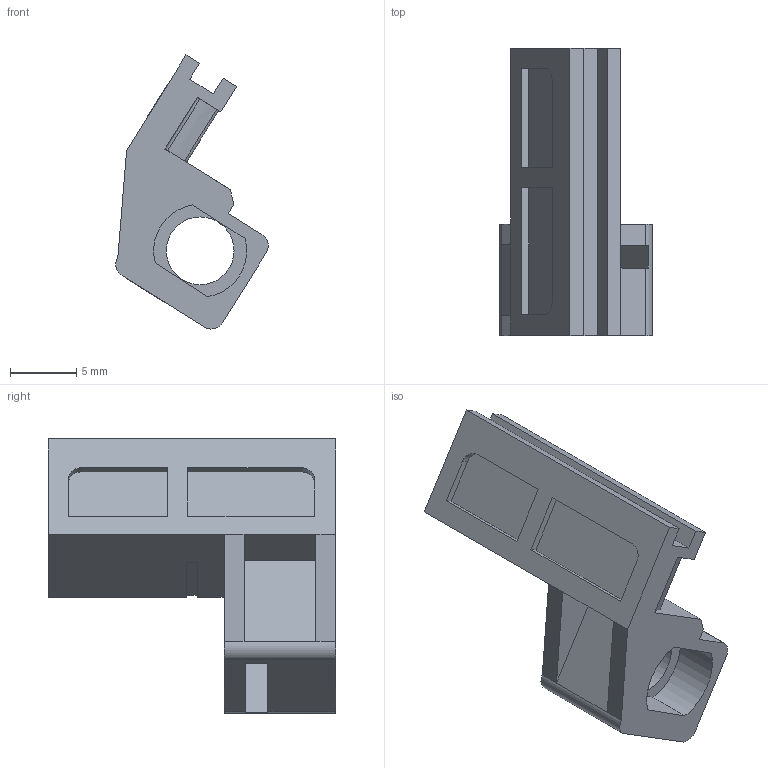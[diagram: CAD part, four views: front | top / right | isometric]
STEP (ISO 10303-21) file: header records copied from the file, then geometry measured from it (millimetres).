
FILE_DESCRIPTION(('CATIA V5 STEP Exchange'),'2;1');
FILE_NAME('C:\Users\Administrator\Desktop\SS2.2工程车\阻尼调节气缸用方案\2021.1.27--做3D打印件更改支架和齿条\3D-chi tiao.stp','2021-01-27T05:25:13+00:00',('none'),('none'),'CATIA Version 5 Release 20 GA (IN-10)','CATIA V5 STEP AP214','none');
FILE_SCHEMA(('AUTOMOTIVE_DESIGN { 1 0 10303 214 1 1 1 1 }'));
Length unit declared in the file: millimetre
Products named in the file (1): 573.4601.04_V1
Bounding box: 11.47 x 21.63 x 20.62 mm (x, y, z)
Volume: 1143.2 mm3; surface area: 1601.2 mm2
Topology: 1 solids, 2 shells, 121 faces, 341 edges, 225 vertices
Faces by surface type: plane 61, cylinder 26, extrusion 21, bspline 13
Entity records: 4875 total; most frequent: CARTESIAN_POINT 1375, ORIENTED_EDGE 682, DIRECTION 407, EDGE_CURVE 341, VERTEX_POINT 225, VECTOR 223, LINE 202, EDGE_LOOP 128
